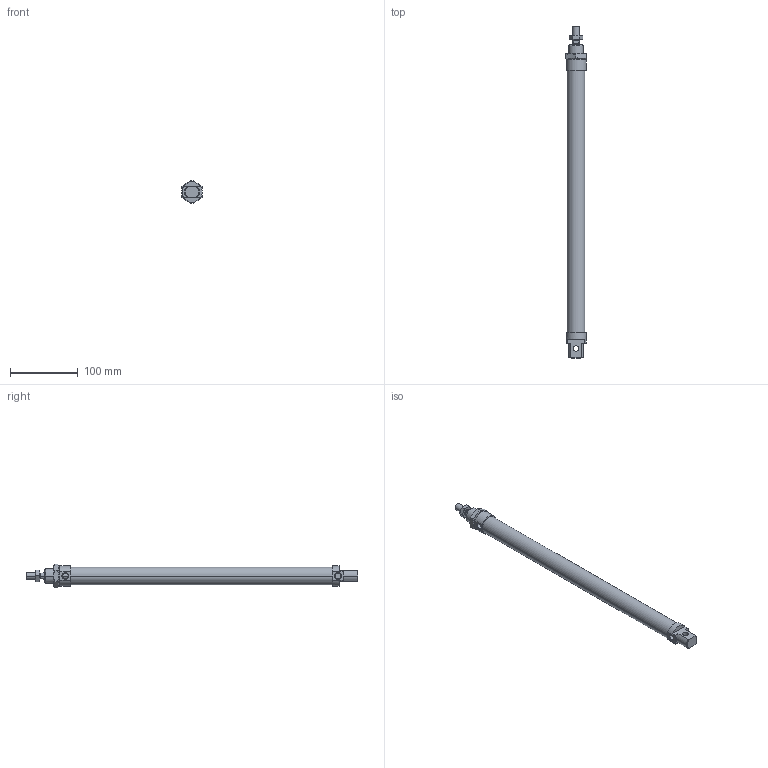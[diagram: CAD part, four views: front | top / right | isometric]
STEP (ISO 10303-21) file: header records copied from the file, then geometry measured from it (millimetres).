
FILE_DESCRIPTION((''),'2;1');
FILE_NAME('I:\DOC-EDP\Lib-3d\1200\CILINDRI\1280\1280_25_0350.stp','2003-04-07T18:01:11',('maffial1'),(''),'Autodesk Inventor (R) 6.0','Autodesk Inventor (R) 6.0','');
FILE_SCHEMA(('AUTOMOTIVE_DESIGN { 1 0 10303 214 1 1 1 1 }'));
Length unit declared in the file: millimetre
Products named in the file (5): 1280_25_0350; S1280_25_350; 1200_25_05; 1200_25_06; C1280_25_350
Assembly tree (4 placements, depth 2):
  1280_25_0350
    S1280_25_350
    1200_25_05
    1200_25_06
    C1280_25_350
Bounding box: 30 x 490 x 34.64 mm (x, y, z)
Volume: 253128.2 mm3; surface area: 68555.4 mm2
Topology: 4 solids, 4 shells, 124 faces, 281 edges, 170 vertices
Faces by surface type: plane 41, cone 40, cylinder 22, bspline 21
Entity records: 3808 total; most frequent: CARTESIAN_POINT 1031, DIRECTION 573, ORIENTED_EDGE 562, EDGE_CURVE 281, AXIS2_PLACEMENT_3D 236, VERTEX_POINT 170, EDGE_LOOP 137, FACE_OUTER_BOUND 124
